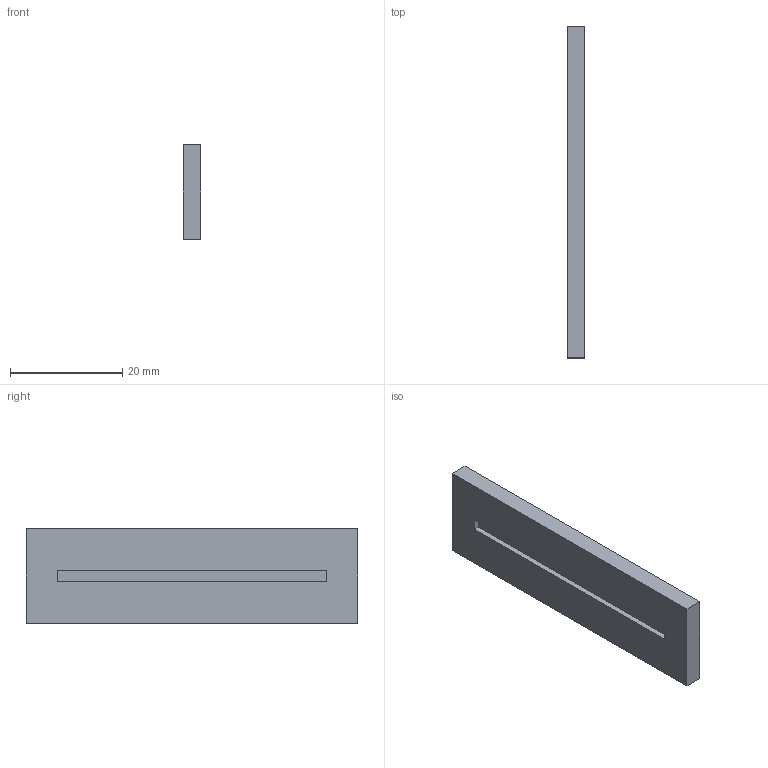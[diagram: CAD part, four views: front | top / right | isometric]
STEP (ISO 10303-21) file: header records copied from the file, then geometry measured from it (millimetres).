
FILE_DESCRIPTION(('FreeCAD Model'),'2;1');
FILE_NAME('Open CASCADE Shape Model','2026-11-08T23:31:29',('FreeCAD'),( 'FreeCAD'),'Open CASCADE STEP processor 7.8','FreeCAD','Unknown');
FILE_SCHEMA(('AUTOMOTIVE_DESIGN { 1 0 10303 214 1 1 1 1 }'));
Length unit declared in the file: millimetre
Products named in the file (1): Open CASCADE STEP translator 7.8 8
Bounding box: 3.2 x 59.2 x 16.8 mm (x, y, z)
Volume: 3086.6 mm3; surface area: 2575.5 mm2
Topology: 1 solids, 1 shells, 11 faces, 24 edges, 16 vertices
Faces by surface type: plane 11
Entity records: 308 total; most frequent: CARTESIAN_POINT 52, DIRECTION 48, ORIENTED_EDGE 48, EDGE_CURVE 24, LINE 24, VECTOR 24, VERTEX_POINT 16, AXIS2_PLACEMENT_3D 12
